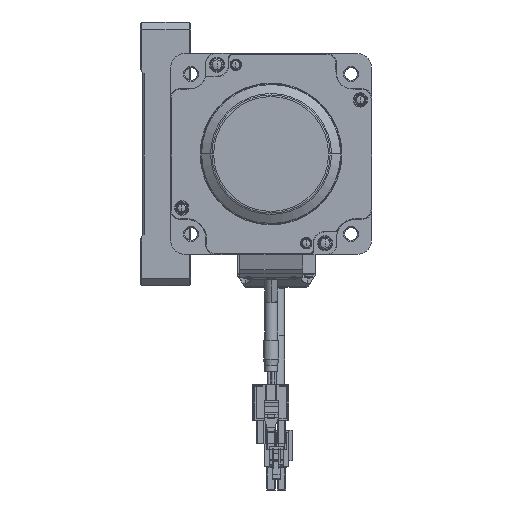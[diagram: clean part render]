
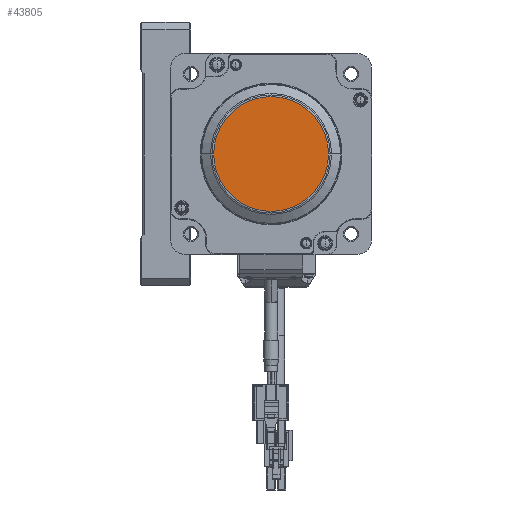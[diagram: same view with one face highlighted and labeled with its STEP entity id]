
A CAD part, front view. The second image highlights one B-rep face of the part: STEP entity #43805.
In plain terms, the highlighted planar face has unit normal (0, -1, 0) as drawn and (-1, 0, 0) by its records, which use the part's own axes.
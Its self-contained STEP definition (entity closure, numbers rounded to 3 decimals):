
#36786=CARTESIAN_POINT('',(-91.9,0.,0.));
#36787=DIRECTION('',(-1.,0.,0.));
#36788=DIRECTION('',(0.,0.,-1.));
#36789=AXIS2_PLACEMENT_3D('',#36786,#36787,#36788);
#36791=CARTESIAN_POINT('',(-91.9,0.,0.));
#36792=DIRECTION('',(-1.,0.,0.));
#36793=DIRECTION('',(0.,0.,1.));
#36794=AXIS2_PLACEMENT_3D('',#36791,#36792,#36793);
#38618=CARTESIAN_POINT('',(-91.9,0.,-22.84));
#38620=VERTEX_POINT('',#38618);
#38624=CARTESIAN_POINT('',(-91.9,0.,22.84));
#38625=VERTEX_POINT('',#38624);
#43795=CARTESIAN_POINT('',(-91.9,-22.,36.));
#43796=DIRECTION('',(1.,0.,0.));
#43797=DIRECTION('',(0.,0.,-1.));
#43798=AXIS2_PLACEMENT_3D('',#43795,#43796,#43797);
#43799=PLANE('',#43798);
#43800=ORIENTED_EDGE('',*,*,#43785,.F.);
#43802=ORIENTED_EDGE('',*,*,#43801,.F.);
#43803=EDGE_LOOP('',(#43800,#43802));
#43804=FACE_OUTER_BOUND('',#43803,.F.);
#43805=ADVANCED_FACE('',(#43804),#43799,.F.);
#36790=CIRCLE('',#36789,22.84);
#36795=CIRCLE('',#36794,22.84);
#43785=EDGE_CURVE('',#38620,#38625,#36790,.T.);
#43801=EDGE_CURVE('',#38625,#38620,#36795,.T.);
